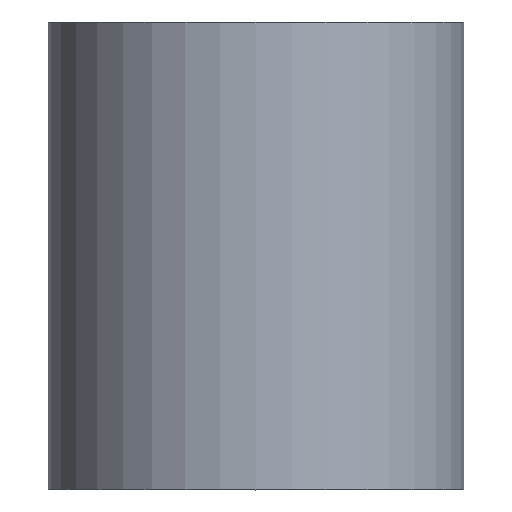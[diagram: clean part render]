
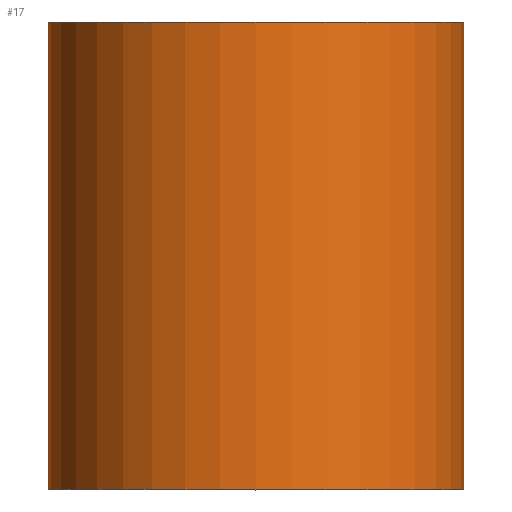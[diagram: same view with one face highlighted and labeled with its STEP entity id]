
A CAD part, top view. The second image highlights one B-rep face of the part: STEP entity #17.
In plain terms, the highlighted cylindrical face has radius 60 mm (diameter 120 mm), a full revolution.
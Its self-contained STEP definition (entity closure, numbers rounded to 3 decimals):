
#17 = ADVANCED_FACE('',(#18),#32,.T.);
#18 = FACE_BOUND('',#19,.F.);
#19 = EDGE_LOOP('',(#20,#50,#77,#78));
#20 = ORIENTED_EDGE('',*,*,#21,.T.);
#21 = EDGE_CURVE('',#22,#24,#26,.T.);
#22 = VERTEX_POINT('',#23);
#23 = CARTESIAN_POINT('',(60.,135.,0.));
#24 = VERTEX_POINT('',#25);
#25 = CARTESIAN_POINT('',(60.,0.,0.));
#26 = SEAM_CURVE('',#27,(#31,#43),.PCURVE_S1.);
#27 = LINE('',#28,#29);
#28 = CARTESIAN_POINT('',(60.,135.,0.));
#29 = VECTOR('',#30,1.);
#30 = DIRECTION('',(0.,-1.,0.));
#31 = PCURVE('',#32,#37);
#32 = CYLINDRICAL_SURFACE('',#33,60.);
#33 = AXIS2_PLACEMENT_3D('',#34,#35,#36);
#34 = CARTESIAN_POINT('',(0.,135.,0.));
#35 = DIRECTION('',(-0.,1.,-0.));
#36 = DIRECTION('',(1.,0.,0.));
#37 = DEFINITIONAL_REPRESENTATION('',(#38),#42);
#38 = LINE('',#39,#40);
#39 = CARTESIAN_POINT('',(-0.,0.));
#40 = VECTOR('',#41,1.);
#41 = DIRECTION('',(-0.,-1.));
#42 = ( GEOMETRIC_REPRESENTATION_CONTEXT(2) 
PARAMETRIC_REPRESENTATION_CONTEXT() REPRESENTATION_CONTEXT('2D SPACE',''
  ) );
#43 = PCURVE('',#32,#44);
#44 = DEFINITIONAL_REPRESENTATION('',(#45),#49);
#45 = LINE('',#46,#47);
#46 = CARTESIAN_POINT('',(-6.283,0.));
#47 = VECTOR('',#48,1.);
#48 = DIRECTION('',(-0.,-1.));
#49 = ( GEOMETRIC_REPRESENTATION_CONTEXT(2) 
PARAMETRIC_REPRESENTATION_CONTEXT() REPRESENTATION_CONTEXT('2D SPACE',''
  ) );
#50 = ORIENTED_EDGE('',*,*,#51,.T.);
#51 = EDGE_CURVE('',#24,#24,#52,.T.);
#52 = SURFACE_CURVE('',#53,(#58,#65),.PCURVE_S1.);
#53 = CIRCLE('',#54,60.);
#54 = AXIS2_PLACEMENT_3D('',#55,#56,#57);
#55 = CARTESIAN_POINT('',(0.,0.,0.));
#56 = DIRECTION('',(0.,-1.,0.));
#57 = DIRECTION('',(1.,0.,0.));
#58 = PCURVE('',#32,#59);
#59 = DEFINITIONAL_REPRESENTATION('',(#60),#64);
#60 = LINE('',#61,#62);
#61 = CARTESIAN_POINT('',(-0.,-135.));
#62 = VECTOR('',#63,1.);
#63 = DIRECTION('',(-1.,0.));
#64 = ( GEOMETRIC_REPRESENTATION_CONTEXT(2) 
PARAMETRIC_REPRESENTATION_CONTEXT() REPRESENTATION_CONTEXT('2D SPACE',''
  ) );
#65 = PCURVE('',#66,#71);
#66 = PLANE('',#67);
#67 = AXIS2_PLACEMENT_3D('',#68,#69,#70);
#68 = CARTESIAN_POINT('',(0.,0.,
    0.));
#69 = DIRECTION('',(-0.,-1.,-0.));
#70 = DIRECTION('',(0.,0.,-1.));
#71 = DEFINITIONAL_REPRESENTATION('',(#72),#76);
#72 = CIRCLE('',#73,60.);
#73 = AXIS2_PLACEMENT_2D('',#74,#75);
#74 = CARTESIAN_POINT('',(0.,0.));
#75 = DIRECTION('',(0.,1.));
#76 = ( GEOMETRIC_REPRESENTATION_CONTEXT(2) 
PARAMETRIC_REPRESENTATION_CONTEXT() REPRESENTATION_CONTEXT('2D SPACE',''
  ) );
#77 = ORIENTED_EDGE('',*,*,#21,.F.);
#78 = ORIENTED_EDGE('',*,*,#79,.F.);
#79 = EDGE_CURVE('',#22,#22,#80,.T.);
#80 = SURFACE_CURVE('',#81,(#86,#93),.PCURVE_S1.);
#81 = CIRCLE('',#82,60.);
#82 = AXIS2_PLACEMENT_3D('',#83,#84,#85);
#83 = CARTESIAN_POINT('',(0.,135.,0.));
#84 = DIRECTION('',(0.,-1.,0.));
#85 = DIRECTION('',(1.,0.,0.));
#86 = PCURVE('',#32,#87);
#87 = DEFINITIONAL_REPRESENTATION('',(#88),#92);
#88 = LINE('',#89,#90);
#89 = CARTESIAN_POINT('',(-0.,0.));
#90 = VECTOR('',#91,1.);
#91 = DIRECTION('',(-1.,0.));
#92 = ( GEOMETRIC_REPRESENTATION_CONTEXT(2) 
PARAMETRIC_REPRESENTATION_CONTEXT() REPRESENTATION_CONTEXT('2D SPACE',''
  ) );
#93 = PCURVE('',#94,#99);
#94 = PLANE('',#95);
#95 = AXIS2_PLACEMENT_3D('',#96,#97,#98);
#96 = CARTESIAN_POINT('',(0.,135.,0.));
#97 = DIRECTION('',(-0.,-1.,-0.));
#98 = DIRECTION('',(0.,0.,-1.));
#99 = DEFINITIONAL_REPRESENTATION('',(#100),#104);
#100 = CIRCLE('',#101,60.);
#101 = AXIS2_PLACEMENT_2D('',#102,#103);
#102 = CARTESIAN_POINT('',(0.,0.));
#103 = DIRECTION('',(0.,1.));
#104 = ( GEOMETRIC_REPRESENTATION_CONTEXT(2) 
PARAMETRIC_REPRESENTATION_CONTEXT() REPRESENTATION_CONTEXT('2D SPACE',''
  ) );
